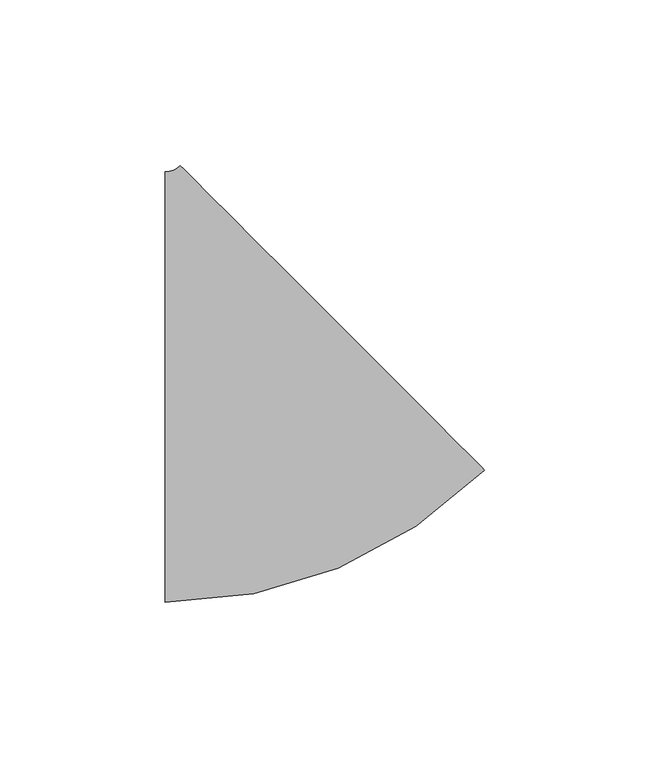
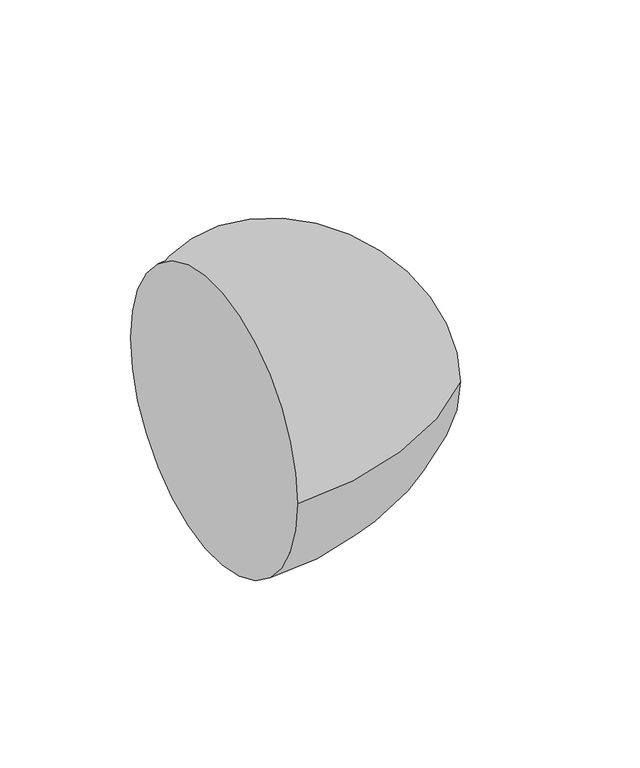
"""IFC4 building model written with IfcOpenShell, lengths in millimetres: pipe fitting geometry, M_Codo - Genérico : Estándar."""

from ifc_helpers import new_model, si_unit, point, frame, origin, place, context, project, spatial, circle_curve, ellipse_curve, trimmed, source, transform, mapped, element, save
from ifc_brep_helpers import plane_surface, revolved_surface, advanced_brep


def pipe_fitting_c1e2db54(model_context):
    return source(origin(), model_context, "Body", "AdvancedBrep", [
        advanced_brep(
        [(-29.5886426, -65.0875, 0.0), (-29.5886426, 65.0875, 0.0), (66.9450994, -25.1042645, 0.0), (-25.0987011, 66.9471854, 0.0)],
        [
            (0, 1, circle_curve(frame((-29.5886426, 0.0, 0.0), z_axis=(-1.0, 0.0, 0.0), x_axis=(0.0, 1.0, 0.0)), 65.0875)),
            (1, 0, circle_curve(frame((-29.5886426, 0.0, 0.0), z_axis=(-1.0, 0.0, 0.0), x_axis=(0.0, 1.0, 0.0)), 65.0875)),
            (2, 3, circle_curve(frame((20.9231991, 20.9214604, 0.0), z_axis=(0.7071361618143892, 0.7070773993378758, 0.0), x_axis=(-0.7070773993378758, 0.7071361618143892, 0.0)), 65.0875)),
            (3, 2, circle_curve(frame((20.9231991, 20.9214604, 0.0), z_axis=(0.7071361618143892, 0.7070773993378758, 0.0), x_axis=(-0.7070773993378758, 0.7071361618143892, 0.0)), 65.0875)),
            (3, 1, circle_curve(frame((-29.5886426, 71.4375, 0.0), z_axis=(0.0, 0.0, -1.0), x_axis=(0.0, -1.0, 0.0)), 6.35)),
            (0, 2, circle_curve(frame((-29.5886426, 71.4375, 0.0), z_axis=(0.0, 0.0, 1.0), x_axis=(0.0, -1.0, 0.0)), 136.525)),
        ],
        [
            plane_surface(frame((-29.5886426, 0.0, 0.0), z_axis=(-1.0, 0.0, 0.0), x_axis=(0.0, 0.0, 1.0))),
            plane_surface(frame((20.9231991, 20.9214604, 0.0), z_axis=(0.7071361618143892, 0.7070773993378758, 0.0), x_axis=(0.0, 0.0, 1.0))),
            revolved_surface(trimmed(ellipse_curve(frame((-29.5886426, 0.0, 0.0), z_axis=(-1.0, 0.0, 0.0), x_axis=(0.0, 1.0, 0.0)), 65.0875, 65.0875), [point((-29.5886426, -65.0875, 0.0))], [point((-29.5886426, 65.0875, 0.0))], True, "CARTESIAN"), (-29.5886426, 71.4375, 0.0), (0.0, 0.0, 1.0)),
            revolved_surface(trimmed(ellipse_curve(frame((-29.5886426, 0.0, 0.0), z_axis=(-1.0, 0.0, 0.0), x_axis=(0.0, 1.0, 0.0)), 65.0875, 65.0875), [point((-29.5886426, 65.0875, 0.0))], [point((-29.5886426, -65.0875, 0.0))], True, "CARTESIAN"), (-29.5886426, 71.4375, 0.0), (0.0, 0.0, 1.0)),
        ],
        [
            (0, [[1, 2]]),
            (1, [[3, 4]]),
            (2, [[5, -1, 6, -4]]),
            (3, [[-6, -2, -5, -3]]),
        ],
    ),
    ])


if __name__ == "__main__":
    model = new_model("IFC4")
    model_context = context("Model", 3, world=origin())
    ifc_project = project(units=[si_unit("LENGTHUNIT", "METRE", prefix="MILLI")], contexts=[model_context])
    site = spatial("IfcSite", under=ifc_project)
    building = spatial("IfcBuilding", under=site)
    placement = place(None, origin())
    pipe_fitting_shape = pipe_fitting_c1e2db54(model_context)
    element("IfcPipeFitting", 1, ObjectType="M_Codo - Genérico : Estándar", at=placement, inside=building, context=model_context, shape_type="MappedRepresentation", body=[
        mapped(pipe_fitting_shape, transform((0.0, 0.0, 0.0), x_axis=(1.0, 0.0, 0.0), y_axis=(0.0, 1.0, 0.0), z_axis=(0.0, 0.0, 1.0))),
    ])
    save(model, "model.ifc")
